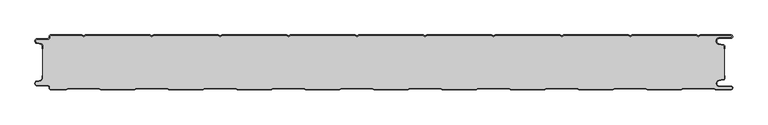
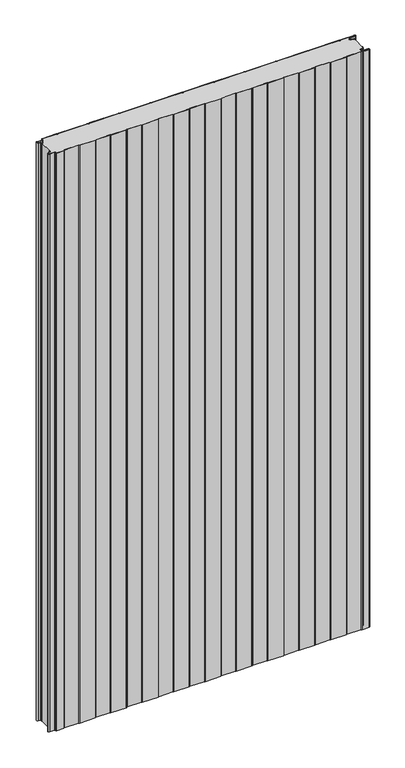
"""IFC4 building model written with IfcOpenShell, lengths in millimetres: plate geometry, PMH_Curtain-PaneL-Standard : ACH_PMH_Stone-wool-Panel_80M."""

from ifc_helpers import new_model, si_unit, point, frame_2d, origin, origin_with_axes, place, context, project, spatial, polyline, circle_curve, trimmed, segment, composite_curve, outline, extrude, source, transform, mapped, element, save


def plate_e8205904(model_context):
    return source(origin(), model_context, "Body", "SweptSolid", [
        extrude(outline(composite_curve([segment(trimmed(circle_curve(frame_2d((-502.0, -15.878557)), 2.0), [point((-500.0, -15.878557))], [point((-501.5500978, -13.9298169))], True, "CARTESIAN"), True, "CONTINUOUS"), segment(polyline([(-501.5500978, -13.9298169), (-507.7098239, -12.507732)]), True, "CONTINUOUS"), segment(trimmed(circle_curve(frame_2d((-506.9, -9.0)), 3.6), [point((-507.7098239, -12.507732))], [point((-506.9, -5.4))], False, "CARTESIAN"), True, "CONTINUOUS"), segment(polyline([(-506.9, -5.4), (-491.4, -5.4)]), True, "CONTINUOUS"), segment(trimmed(circle_curve(frame_2d((-491.4, -3.4)), 2.0), [point((-491.4, -5.4))], [point((-489.4, -3.4))], True, "CARTESIAN"), True, "CONTINUOUS"), segment(polyline([(-489.4, -3.4), (-489.4, -2.0)]), True, "CONTINUOUS"), segment(trimmed(circle_curve(frame_2d((-487.4, -2.0)), 2.0), [point((-489.4, -2.0))], [point((-487.4, 0.0))], False, "CARTESIAN"), True, "CONTINUOUS"), segment(polyline([(-487.4, 0.0), (-442.0999995, 0.0), (-439.4, -1.5588455), (-436.7000005, 0.0), (-342.0999995, 0.0), (-339.4, -1.5588455), (-336.7000005, 0.0), (-242.0999995, 0.0), (-239.4, -1.5588455), (-236.7000005, 0.0), (-142.0999995, 0.0), (-139.4, -1.5588455), (-136.7000005, 0.0), (-42.0999995, 0.0), (-39.4, -1.5588455), (-36.7000005, 0.0), (57.9000005, 0.0), (60.6, -1.5588455), (63.2999995, 0.0), (157.9000005, 0.0), (160.6, -1.5588455), (163.2999995, 0.0), (257.9000005, 0.0), (260.6, -1.5588455), (263.2999995, 0.0), (357.9000005, 0.0), (360.6, -1.5588455), (363.2999995, 0.0), (457.9000005, 0.0), (460.6, -1.5588455), (463.2999995, 0.0), (508.1, 0.0)]), True, "CONTINUOUS"), segment(trimmed(circle_curve(frame_2d((508.1, -2.5)), 2.5), [point((508.1, 0.0))], [point((508.1, -5.0))], False, "CARTESIAN"), True, "CONTINUOUS"), segment(polyline([(508.1, -5.0), (491.1, -5.0)]), True, "CONTINUOUS"), segment(trimmed(circle_curve(frame_2d((491.1, -9.0)), 4.0), [point((491.1, -5.0))], [point((490.405407, -12.939231))], True, "CARTESIAN"), True, "CONTINUOUS"), segment(polyline([(490.405407, -12.939231), (496.8514855, -14.0758491)]), True, "CONTINUOUS"), segment(trimmed(circle_curve(frame_2d((496.4, -16.6363492)), 2.6), [point((496.8514855, -14.0758491))], [point((499.0, -16.6363492))], False, "CARTESIAN"), True, "CONTINUOUS"), segment(polyline([(499.0, -16.6363492), (499.0, -20.0), (498.2, -20.0), (498.2, -16.6363492)]), True, "CONTINUOUS"), segment(trimmed(circle_curve(frame_2d((496.4, -16.6363492)), 1.8), [point((498.2, -16.6363492))], [point((496.7125669, -14.8636953))], True, "CARTESIAN"), True, "CONTINUOUS"), segment(polyline([(496.7125669, -14.8636953), (490.2664884, -13.7270772)]), True, "CONTINUOUS"), segment(trimmed(circle_curve(frame_2d((491.1, -9.0)), 4.8), [point((490.2664884, -13.7270772))], [point((491.1, -4.2))], False, "CARTESIAN"), True, "CONTINUOUS"), segment(polyline([(491.1, -4.2), (508.1, -4.2)]), True, "CONTINUOUS"), segment(trimmed(circle_curve(frame_2d((508.1, -2.5)), 1.7), [point((508.1, -4.2))], [point((508.1, -0.8))], True, "CARTESIAN"), True, "CONTINUOUS"), segment(polyline([(508.1, -0.8), (463.5143588, -0.8), (460.6, -2.482606), (457.6856412, -0.8), (363.5143588, -0.8), (360.6, -2.482606), (357.6856412, -0.8), (263.5143588, -0.8), (260.6, -2.482606), (257.6856412, -0.8), (163.5143588, -0.8), (160.6, -2.482606), (157.6856412, -0.8), (63.5143588, -0.8), (60.6, -2.482606), (57.6856412, -0.8), (-36.4856412, -0.8), (-39.4, -2.482606), (-42.3143588, -0.8), (-136.4856412, -0.8), (-139.4, -2.482606), (-142.3143588, -0.8), (-236.4856412, -0.8), (-239.4, -2.482606), (-242.3143588, -0.8), (-336.4856412, -0.8), (-339.4, -2.482606), (-342.3143588, -0.8), (-436.4856412, -0.8), (-439.4, -2.482606), (-442.3143588, -0.8), (-487.4, -0.8)]), True, "CONTINUOUS"), segment(trimmed(circle_curve(frame_2d((-487.4, -2.0)), 1.2), [point((-487.4, -0.8))], [point((-488.6, -2.0))], True, "CARTESIAN"), True, "CONTINUOUS"), segment(polyline([(-488.6, -2.0), (-488.6, -3.4)]), True, "CONTINUOUS"), segment(trimmed(circle_curve(frame_2d((-491.4, -3.4)), 2.8), [point((-488.6, -3.4))], [point((-491.4, -6.2))], False, "CARTESIAN"), True, "CONTINUOUS"), segment(polyline([(-491.4, -6.2), (-506.9, -6.2)]), True, "CONTINUOUS"), segment(trimmed(circle_curve(frame_2d((-506.9, -9.0)), 2.8), [point((-506.9, -6.2))], [point((-507.529863, -11.7282362))], True, "CARTESIAN"), True, "CONTINUOUS"), segment(polyline([(-507.529863, -11.7282362), (-501.370137, -13.150321)]), True, "CONTINUOUS"), segment(trimmed(circle_curve(frame_2d((-502.0, -15.878557)), 2.8), [point((-501.370137, -13.150321))], [point((-499.2, -15.878557))], False, "CARTESIAN"), True, "CONTINUOUS"), segment(polyline([(-499.2, -15.878557), (-499.2, -20.0), (-500.0, -20.0), (-500.0, -15.878557)]), True, "CONTINUOUS")], self_intersect=False)), origin_with_axes(), (0.0, 0.0, 1.0), 1945.7507136),
        extrude(outline(composite_curve([segment(polyline([(-499.2, -64.121443), (-499.2, -15.8785573)]), True, "CONTINUOUS"), segment(trimmed(circle_curve(frame_2d((-502.0, -15.8785573)), 2.8), [point((-499.2, -15.8785573))], [point((-501.370137, -13.1503212))], True, "CARTESIAN"), True, "CONTINUOUS"), segment(polyline([(-501.370137, -13.1503212), (-507.5298631, -11.7282362)]), True, "CONTINUOUS"), segment(trimmed(circle_curve(frame_2d((-506.9, -9.0)), 2.8), [point((-507.5298631, -11.7282362))], [point((-506.9, -6.2))], False, "CARTESIAN"), True, "CONTINUOUS"), segment(polyline([(-506.9, -6.2), (-491.4000001, -6.2)]), True, "CONTINUOUS"), segment(trimmed(circle_curve(frame_2d((-491.4000001, -3.4)), 2.8), [point((-491.4000001, -6.2))], [point((-488.6000001, -3.4))], True, "CARTESIAN"), True, "CONTINUOUS"), segment(polyline([(-488.6000001, -3.4), (-488.6000001, -2.0)]), True, "CONTINUOUS"), segment(trimmed(circle_curve(frame_2d((-487.4000001, -2.0)), 1.2), [point((-488.6000001, -2.0))], [point((-487.4000001, -0.8))], False, "CARTESIAN"), True, "CONTINUOUS"), segment(polyline([(-487.4000001, -0.8), (-442.3143589, -0.8), (-439.4000001, -2.482606), (-436.4856412, -0.8), (-342.3143589, -0.8), (-339.4000001, -2.482606), (-336.4856412, -0.8), (-242.3143589, -0.8), (-239.4000001, -2.482606), (-236.4856412, -0.8), (-142.3143589, -0.8), (-139.4000001, -2.482606), (-136.4856412, -0.8), (-42.3143589, -0.8), (-39.4000001, -2.482606), (-36.4856412, -0.8), (57.6856411, -0.8), (60.5999999, -2.482606), (63.5143588, -0.8), (157.6856411, -0.8), (160.5999999, -2.482606), (163.5143588, -0.8), (257.6856411, -0.8), (260.5999999, -2.482606), (263.5143588, -0.8), (357.6856411, -0.8), (360.5999999, -2.482606), (363.5143588, -0.8), (457.6856411, -0.8), (460.5999999, -2.482606), (463.5143587, -0.8), (508.1, -0.8)]), True, "CONTINUOUS"), segment(trimmed(circle_curve(frame_2d((508.1, -2.5)), 1.7), [point((508.1, -0.8))], [point((508.1, -4.2))], False, "CARTESIAN"), True, "CONTINUOUS"), segment(polyline([(508.1, -4.2), (491.1, -4.2)]), True, "CONTINUOUS"), segment(trimmed(circle_curve(frame_2d((491.1, -9.0)), 4.8), [point((491.1, -4.2))], [point((490.2664883, -13.7270771))], True, "CARTESIAN"), True, "CONTINUOUS"), segment(polyline([(490.2664883, -13.7270771), (496.7125668, -14.8636953)]), True, "CONTINUOUS"), segment(trimmed(circle_curve(frame_2d((496.4, -16.6363492)), 1.8), [point((496.7125668, -14.8636953))], [point((498.2, -16.6363492))], False, "CARTESIAN"), True, "CONTINUOUS"), segment(polyline([(498.2, -16.6363492), (498.2, -63.363652)]), True, "CONTINUOUS"), segment(trimmed(circle_curve(frame_2d((496.4, -63.363652)), 1.8), [point((498.2, -63.363652))], [point((496.7125666, -65.1363059))], False, "CARTESIAN"), True, "CONTINUOUS"), segment(polyline([(496.7125666, -65.1363059), (490.266489, -66.272923)]), True, "CONTINUOUS"), segment(trimmed(circle_curve(frame_2d((491.1, -71.0000002)), 4.7999999), [point((490.266489, -66.272923))], [point((491.1, -75.8000001))], True, "CARTESIAN"), True, "CONTINUOUS"), segment(polyline([(491.1, -75.8000001), (508.1, -75.8000001)]), True, "CONTINUOUS"), segment(trimmed(circle_curve(frame_2d((508.1, -77.5)), 1.7), [point((508.1, -75.8000001))], [point((508.1, -79.2))], False, "CARTESIAN"), True, "CONTINUOUS"), segment(polyline([(508.1, -79.2), (485.8105122, -79.2), (483.2124346, -77.7), (437.9837184, -77.7), (435.3856408, -79.2), (385.8105122, -79.2), (383.2124346, -77.7), (337.9837184, -77.7), (335.3856408, -79.2), (285.8105122, -79.2), (283.2124346, -77.7), (237.9837184, -77.7), (235.3856408, -79.2), (185.8105122, -79.2), (183.2124346, -77.7), (137.9837184, -77.7), (135.3856408, -79.2), (85.8105122, -79.2), (83.2124346, -77.7), (37.9837184, -77.7), (35.3856408, -79.2), (-14.1894878, -79.2), (-16.7875654, -77.7), (-62.0162816, -77.7), (-64.6143592, -79.2), (-114.1894878, -79.2), (-116.7875654, -77.7), (-162.0162816, -77.7), (-164.6143592, -79.2), (-214.1894878, -79.2), (-216.7875654, -77.7), (-262.0162816, -77.7), (-264.6143592, -79.2), (-314.1894878, -79.2), (-316.7875654, -77.7), (-362.0162816, -77.7), (-364.6143592, -79.2), (-414.1894878, -79.2), (-416.7875654, -77.7), (-462.0162816, -77.7), (-464.6143592, -79.2), (-487.4, -79.2)]), True, "CONTINUOUS"), segment(trimmed(circle_curve(frame_2d((-487.4, -78.0)), 1.2), [point((-487.4, -79.2))], [point((-488.6, -78.0))], False, "CARTESIAN"), True, "CONTINUOUS"), segment(polyline([(-488.6, -78.0), (-488.6, -76.5999998)]), True, "CONTINUOUS"), segment(trimmed(circle_curve(frame_2d((-491.4, -76.5999998)), 2.8), [point((-488.6, -76.5999998))], [point((-491.4, -73.7999998))], True, "CARTESIAN"), True, "CONTINUOUS"), segment(polyline([(-491.4, -73.7999998), (-506.9, -73.7999998)]), True, "CONTINUOUS"), segment(trimmed(circle_curve(frame_2d((-506.9, -71.0)), 2.7999998), [point((-506.9, -73.7999998))], [point((-507.529863, -68.271764))], False, "CARTESIAN"), True, "CONTINUOUS"), segment(polyline([(-507.529863, -68.271764), (-501.370137, -66.8496792)]), True, "CONTINUOUS"), segment(trimmed(circle_curve(frame_2d((-502.0, -64.121443)), 2.8), [point((-501.370137, -66.8496792))], [point((-499.2, -64.121443))], True, "CARTESIAN"), True, "CONTINUOUS")], self_intersect=False)), origin_with_axes(), (0.0, 0.0, 1.0), 1945.7507136),
        extrude(outline(composite_curve([segment(trimmed(circle_curve(frame_2d((-487.4, -78.0)), 2.0), [point((-487.4, -80.0))], [point((-489.4, -78.0))], False, "CARTESIAN"), True, "CONTINUOUS"), segment(polyline([(-489.4, -78.0), (-489.4, -76.6)]), True, "CONTINUOUS"), segment(trimmed(circle_curve(frame_2d((-491.4, -76.6)), 2.0), [point((-489.4, -76.6))], [point((-491.4, -74.6))], True, "CARTESIAN"), True, "CONTINUOUS"), segment(polyline([(-491.4, -74.6), (-506.9, -74.6)]), True, "CONTINUOUS"), segment(trimmed(circle_curve(frame_2d((-506.9, -71.0)), 3.6), [point((-506.9, -74.6))], [point((-507.7098239, -67.4922678))], False, "CARTESIAN"), True, "CONTINUOUS"), segment(polyline([(-507.7098239, -67.4922678), (-501.5500979, -66.070183)]), True, "CONTINUOUS"), segment(trimmed(circle_curve(frame_2d((-502.0, -64.121443)), 2.0), [point((-501.5500979, -66.070183))], [point((-500.0, -64.121443))], True, "CARTESIAN"), True, "CONTINUOUS"), segment(polyline([(-500.0, -64.121443), (-500.0, -60.0), (-499.2, -60.0), (-499.2, -64.121443)]), True, "CONTINUOUS"), segment(trimmed(circle_curve(frame_2d((-502.0, -64.121443)), 2.8), [point((-499.2, -64.121443))], [point((-501.370137, -66.8496792))], False, "CARTESIAN"), True, "CONTINUOUS"), segment(polyline([(-501.370137, -66.8496792), (-507.529863, -68.271764)]), True, "CONTINUOUS"), segment(trimmed(circle_curve(frame_2d((-506.9, -71.0)), 2.8), [point((-507.529863, -68.271764))], [point((-506.9, -73.8))], True, "CARTESIAN"), True, "CONTINUOUS"), segment(polyline([(-506.9, -73.8), (-491.4, -73.8)]), True, "CONTINUOUS"), segment(trimmed(circle_curve(frame_2d((-491.4, -76.6)), 2.8), [point((-491.4, -73.8))], [point((-488.6, -76.6))], False, "CARTESIAN"), True, "CONTINUOUS"), segment(polyline([(-488.6, -76.6), (-488.6, -78.0)]), True, "CONTINUOUS"), segment(trimmed(circle_curve(frame_2d((-487.4, -78.0)), 1.2), [point((-488.6, -78.0))], [point((-487.4, -79.2))], True, "CARTESIAN"), True, "CONTINUOUS"), segment(polyline([(-487.4, -79.2), (-464.6143592, -79.2), (-462.0162816, -77.7), (-416.7875654, -77.7), (-414.1894878, -79.2), (-364.6143592, -79.2), (-362.0162816, -77.7), (-316.7875654, -77.7), (-314.1894878, -79.2), (-264.6143592, -79.2), (-262.0162816, -77.7), (-216.7875654, -77.7), (-214.1894878, -79.2), (-164.6143592, -79.2), (-162.0162816, -77.7), (-116.7875654, -77.7), (-114.1894878, -79.2), (-64.6143592, -79.2), (-62.0162816, -77.7), (-16.7875654, -77.7), (-14.1894878, -79.2), (35.3856408, -79.2), (37.9837184, -77.7), (83.2124346, -77.7), (85.8105122, -79.2), (135.3856408, -79.2), (137.9837184, -77.7), (183.2124346, -77.7), (185.8105122, -79.2), (235.3856408, -79.2), (237.9837184, -77.7), (283.2124346, -77.7), (285.8105122, -79.2), (335.3856408, -79.2), (337.9837184, -77.7), (383.2124346, -77.7), (385.8105122, -79.2), (435.3856408, -79.2), (437.9837184, -77.7), (483.2124346, -77.7), (485.8105122, -79.2), (508.1, -79.2)]), True, "CONTINUOUS"), segment(trimmed(circle_curve(frame_2d((508.1, -77.5)), 1.7), [point((508.1, -79.2))], [point((508.1, -75.8))], True, "CARTESIAN"), True, "CONTINUOUS"), segment(polyline([(508.1, -75.8), (491.1, -75.8)]), True, "CONTINUOUS"), segment(trimmed(circle_curve(frame_2d((491.1, -71.0)), 4.8), [point((491.1, -75.8))], [point((490.266489, -66.2729227))], False, "CARTESIAN"), True, "CONTINUOUS"), segment(polyline([(490.266489, -66.2729227), (496.7125666, -65.1363058)]), True, "CONTINUOUS"), segment(trimmed(circle_curve(frame_2d((496.4, -63.363652)), 1.8), [point((496.7125666, -65.1363058))], [point((498.2, -63.363652))], True, "CARTESIAN"), True, "CONTINUOUS"), segment(polyline([(498.2, -63.363652), (498.2, -60.0), (499.0, -60.0), (499.0, -63.363652)]), True, "CONTINUOUS"), segment(trimmed(circle_curve(frame_2d((496.4, -63.363652)), 2.6), [point((499.0, -63.363652))], [point((496.8514851, -65.9241522))], False, "CARTESIAN"), True, "CONTINUOUS"), segment(polyline([(496.8514851, -65.9241522), (490.4054075, -67.0607691)]), True, "CONTINUOUS"), segment(trimmed(circle_curve(frame_2d((491.1, -71.0)), 4.0), [point((490.4054075, -67.0607691))], [point((491.1, -75.0))], True, "CARTESIAN"), True, "CONTINUOUS"), segment(polyline([(491.1, -75.0), (508.1, -75.0)]), True, "CONTINUOUS"), segment(trimmed(circle_curve(frame_2d((508.1, -77.5)), 2.5), [point((508.1, -75.0))], [point((508.1, -80.0))], False, "CARTESIAN"), True, "CONTINUOUS"), segment(polyline([(508.1, -80.0), (485.5961529, -80.0), (482.9980753, -78.5), (438.1980777, -78.5), (435.6000001, -80.0), (385.5961529, -80.0), (382.9980753, -78.5), (338.1980777, -78.5), (335.6000001, -80.0), (285.5961529, -80.0), (282.9980753, -78.5), (238.1980777, -78.5), (235.6000001, -80.0), (185.5961529, -80.0), (182.9980753, -78.5), (138.1980777, -78.5), (135.6000001, -80.0), (85.5961529, -80.0), (82.9980753, -78.5), (38.1980777, -78.5), (35.6000001, -80.0), (-14.4038471, -80.0), (-17.0019247, -78.5), (-61.8019223, -78.5), (-64.3999999, -80.0), (-114.4038471, -80.0), (-117.0019247, -78.5), (-161.8019223, -78.5), (-164.3999999, -80.0), (-214.4038471, -80.0), (-217.0019247, -78.5), (-261.8019223, -78.5), (-264.3999999, -80.0), (-314.4038471, -80.0), (-317.0019247, -78.5), (-361.8019223, -78.5), (-364.3999999, -80.0), (-414.4038471, -80.0), (-417.0019247, -78.5), (-461.8019223, -78.5), (-464.3999999, -80.0), (-487.4, -80.0)]), True, "CONTINUOUS")], self_intersect=False)), origin_with_axes(), (0.0, 0.0, 1.0), 1945.7507136),
    ])


if __name__ == "__main__":
    model = new_model("IFC4")
    model_context = context("Model", 3, world=origin())
    ifc_project = project(units=[si_unit("LENGTHUNIT", "METRE", prefix="MILLI")], contexts=[model_context])
    site = spatial("IfcSite", under=ifc_project)
    building = spatial("IfcBuilding", under=site)
    placement = place(None, origin())
    plate_shape = plate_e8205904(model_context)
    element("IfcPlate", 1, ObjectType="PMH_Curtain-PaneL-Standard : ACH_PMH_Stone-wool-Panel_80M", at=placement, inside=building, context=model_context, shape_type="MappedRepresentation", body=[
        mapped(plate_shape, transform((0.0, 0.0, 0.0), x_axis=(1.0, 0.0, 0.0), y_axis=(0.0, 1.0, 0.0), z_axis=(0.0, 0.0, 1.0))),
    ])
    save(model, "model.ifc")
